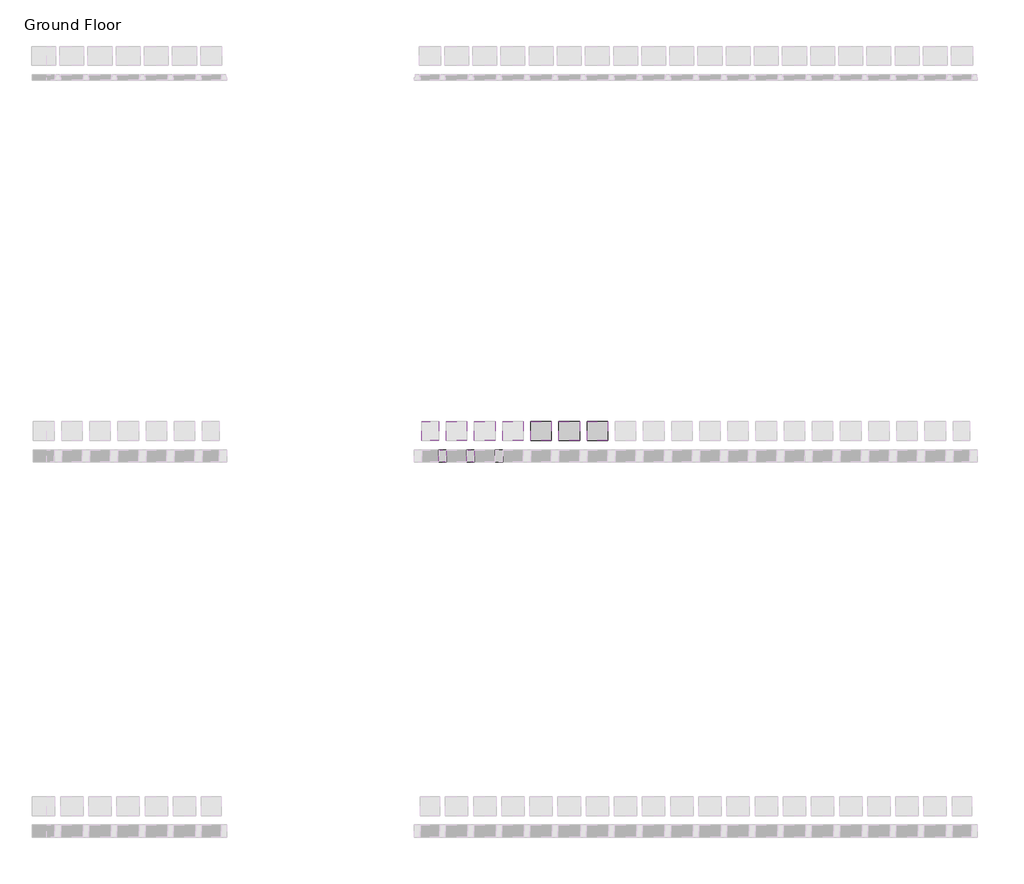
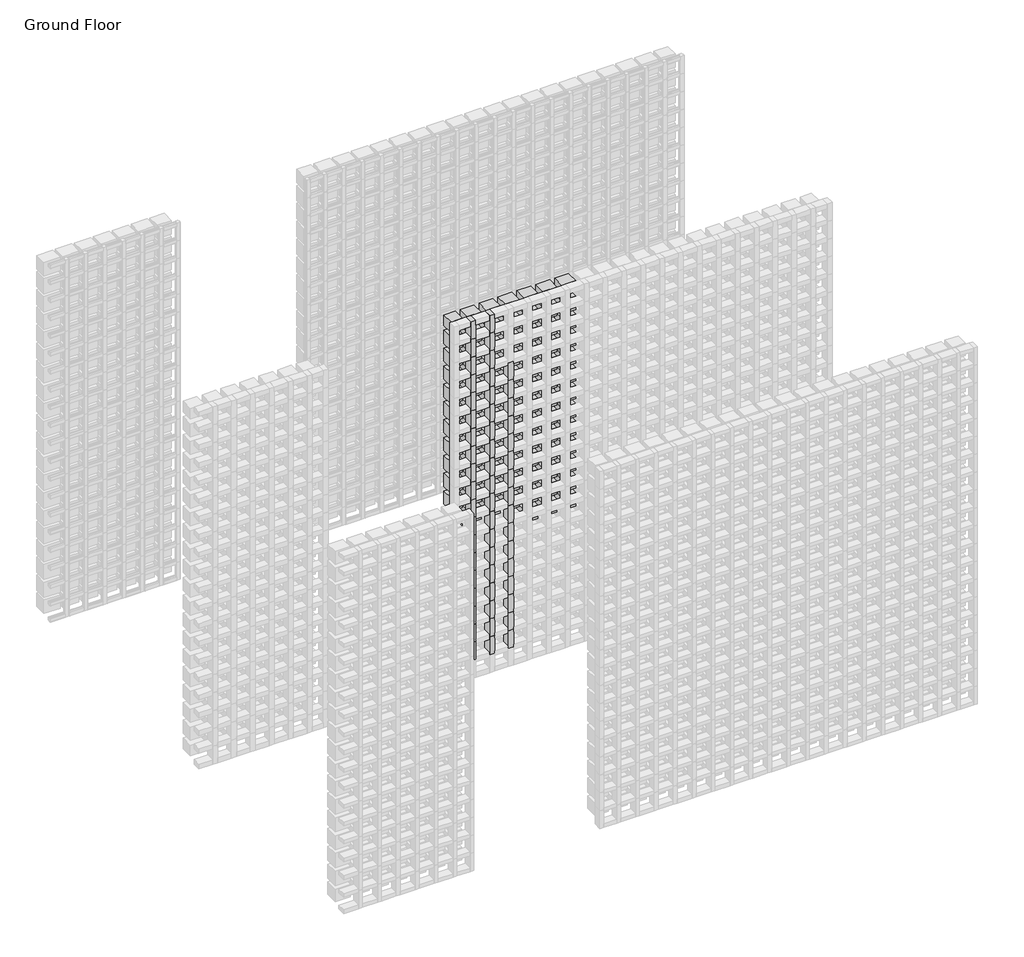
# One storey, part 127 of 350: 87 plates, 54 members.
"""IFC4 building model written with IfcOpenShell, lengths in millimetres."""

from ifc_helpers import new_model, si_unit, origin, place, context, project, spatial, transform, mapped, element, save
from components import rectangular_mullion_655930e9, empty_system_panel_empty_3b500fad, empty_system_panel_empty_e4510abc, empty_system_panel_empty_1faefc6a, empty_system_panel_empty_7f4523f5

model = new_model("IFC4")

# Units and contexts
model_context = context("Model", 3, world=origin())
ifc_project = project(units=[si_unit("LENGTHUNIT", "METRE", prefix="MILLI")], contexts=[model_context])

# Site, building, storey
site = spatial("IfcSite", under=ifc_project)
building = spatial("IfcBuilding", under=site)
storey = spatial("IfcBuildingStorey", under=building, Name="Ground Floor", Elevation=0.0)

# Members
placement = place(None, origin())
rectangular_mullion_shape = rectangular_mullion_655930e9(model_context)
element("IfcMember", 1, ObjectType="Rectangular Mullion : Batten_Timber_Modinex_Austratus_Grid_Fascia_40x65_Hemlock", at=placement, inside=storey, context=model_context, shape_type="MappedRepresentation", body=[
    mapped(rectangular_mullion_shape, transform((10066.4361642, 40968.2978302, 150.0), x_axis=(1.0, 0.0, 0.0), y_axis=(0.0, -1.0, 0.0), z_axis=(0.0, 0.0, -1.0))),
])
element("IfcMember", 2, ObjectType="Rectangular Mullion : Batten_Timber_Modinex_Austratus_Grid_Fascia_40x65_Hemlock", at=placement, inside=storey, context=model_context, shape_type="MappedRepresentation", body=[
    mapped(rectangular_mullion_shape, transform((10066.4361642, 40968.2978302, 300.0), x_axis=(1.0, 0.0, 0.0), y_axis=(0.0, -1.0, 0.0), z_axis=(0.0, 0.0, -1.0))),
])
element("IfcMember", 3, ObjectType="Rectangular Mullion : Batten_Timber_Modinex_Austratus_Grid_Fascia_40x65_Hemlock", at=placement, inside=storey, context=model_context, shape_type="MappedRepresentation", body=[
    mapped(rectangular_mullion_shape, transform((10066.4361642, 40968.2978302, 450.0), x_axis=(1.0, 0.0, 0.0), y_axis=(0.0, -1.0, 0.0), z_axis=(0.0, 0.0, -1.0))),
])
element("IfcMember", 4, ObjectType="Rectangular Mullion : Batten_Timber_Modinex_Austratus_Grid_Fascia_40x65_Hemlock", at=placement, inside=storey, context=model_context, shape_type="MappedRepresentation", body=[
    mapped(rectangular_mullion_shape, transform((10066.4361642, 40968.2978302, 600.0), x_axis=(1.0, 0.0, 0.0), y_axis=(0.0, -1.0, 0.0), z_axis=(0.0, 0.0, -1.0))),
])
element("IfcMember", 5, ObjectType="Rectangular Mullion : Batten_Timber_Modinex_Austratus_Grid_Fascia_40x65_Hemlock", at=placement, inside=storey, context=model_context, shape_type="MappedRepresentation", body=[
    mapped(rectangular_mullion_shape, transform((10066.4361642, 40968.2978302, 750.0), x_axis=(1.0, 0.0, 0.0), y_axis=(0.0, -1.0, 0.0), z_axis=(0.0, 0.0, -1.0))),
])
element("IfcMember", 6, ObjectType="Rectangular Mullion : Batten_Timber_Modinex_Austratus_Grid_Fascia_40x65_Hemlock", at=placement, inside=storey, context=model_context, shape_type="MappedRepresentation", body=[
    mapped(rectangular_mullion_shape, transform((10066.4361642, 40968.2978302, 900.0), x_axis=(1.0, 0.0, 0.0), y_axis=(0.0, -1.0, 0.0), z_axis=(0.0, 0.0, -1.0))),
])
element("IfcMember", 7, ObjectType="Rectangular Mullion : Batten_Timber_Modinex_Austratus_Grid_Fascia_40x65_Hemlock", at=placement, inside=storey, context=model_context, shape_type="MappedRepresentation", body=[
    mapped(rectangular_mullion_shape, transform((10066.4361642, 40968.2978302, 1050.0), x_axis=(1.0, 0.0, 0.0), y_axis=(0.0, -1.0, 0.0), z_axis=(0.0, 0.0, -1.0))),
])
element("IfcMember", 8, ObjectType="Rectangular Mullion : Batten_Timber_Modinex_Austratus_Grid_Fascia_40x65_Hemlock", at=placement, inside=storey, context=model_context, shape_type="MappedRepresentation", body=[
    mapped(rectangular_mullion_shape, transform((10066.4361642, 40968.2978302, 1200.0), x_axis=(1.0, 0.0, 0.0), y_axis=(0.0, -1.0, 0.0), z_axis=(0.0, 0.0, -1.0))),
])
element("IfcMember", 9, ObjectType="Rectangular Mullion : Batten_Timber_Modinex_Austratus_Grid_Fascia_40x65_Hemlock", at=placement, inside=storey, context=model_context, shape_type="MappedRepresentation", body=[
    mapped(rectangular_mullion_shape, transform((10066.4361642, 40968.2978302, 1350.0), x_axis=(1.0, 0.0, 0.0), y_axis=(0.0, -1.0, 0.0), z_axis=(0.0, 0.0, -1.0))),
])
element("IfcMember", 10, ObjectType="Rectangular Mullion : Batten_Timber_Modinex_Austratus_Grid_Fascia_40x65_Hemlock", at=placement, inside=storey, context=model_context, shape_type="MappedRepresentation", body=[
    mapped(rectangular_mullion_shape, transform((10066.4361642, 40968.2978302, 1500.0), x_axis=(1.0, 0.0, 0.0), y_axis=(0.0, -1.0, 0.0), z_axis=(0.0, 0.0, -1.0))),
])
element("IfcMember", 11, ObjectType="Rectangular Mullion : Batten_Timber_Modinex_Austratus_Grid_Fascia_40x65_Hemlock", at=placement, inside=storey, context=model_context, shape_type="MappedRepresentation", body=[
    mapped(rectangular_mullion_shape, transform((10066.4361642, 40968.2978302, 1650.0), x_axis=(1.0, 0.0, 0.0), y_axis=(0.0, -1.0, 0.0), z_axis=(0.0, 0.0, -1.0))),
])
element("IfcMember", 12, ObjectType="Rectangular Mullion : Batten_Timber_Modinex_Austratus_Grid_Fascia_40x65_Hemlock", at=placement, inside=storey, context=model_context, shape_type="MappedRepresentation", body=[
    mapped(rectangular_mullion_shape, transform((10066.4361642, 40968.2978302, 1800.0), x_axis=(1.0, 0.0, 0.0), y_axis=(0.0, -1.0, 0.0), z_axis=(0.0, 0.0, -1.0))),
])
element("IfcMember", 13, ObjectType="Rectangular Mullion : Batten_Timber_Modinex_Austratus_Grid_Fascia_40x65_Hemlock", at=placement, inside=storey, context=model_context, shape_type="MappedRepresentation", body=[
    mapped(rectangular_mullion_shape, transform((10066.4361642, 40968.2978302, 1950.0), x_axis=(1.0, 0.0, 0.0), y_axis=(0.0, -1.0, 0.0), z_axis=(0.0, 0.0, -1.0))),
])
element("IfcMember", 14, ObjectType="Rectangular Mullion : Batten_Timber_Modinex_Austratus_Grid_Fascia_40x65_Hemlock", at=placement, inside=storey, context=model_context, shape_type="MappedRepresentation", body=[
    mapped(rectangular_mullion_shape, transform((10066.4361642, 40968.2978302, 2100.0), x_axis=(1.0, 0.0, 0.0), y_axis=(0.0, -1.0, 0.0), z_axis=(0.0, 0.0, -1.0))),
])
element("IfcMember", 15, ObjectType="Rectangular Mullion : Batten_Timber_Modinex_Austratus_Grid_Fascia_40x65_Hemlock", at=placement, inside=storey, context=model_context, shape_type="MappedRepresentation", body=[
    mapped(rectangular_mullion_shape, transform((10066.4361642, 40968.2978302, 2250.0), x_axis=(1.0, 0.0, 0.0), y_axis=(0.0, -1.0, 0.0), z_axis=(0.0, 0.0, -1.0))),
])
element("IfcMember", 16, ObjectType="Rectangular Mullion : Batten_Timber_Modinex_Austratus_Grid_Fascia_40x65_Hemlock", at=placement, inside=storey, context=model_context, shape_type="MappedRepresentation", body=[
    mapped(rectangular_mullion_shape, transform((10066.4361642, 40968.2978302, 2400.0), x_axis=(1.0, 0.0, 0.0), y_axis=(0.0, -1.0, 0.0), z_axis=(0.0, 0.0, -1.0))),
])
element("IfcMember", 17, ObjectType="Rectangular Mullion : Batten_Timber_Modinex_Austratus_Grid_Fascia_40x65_Hemlock", at=placement, inside=storey, context=model_context, shape_type="MappedRepresentation", body=[
    mapped(rectangular_mullion_shape, transform((10066.4361642, 40968.2978302, 2550.0), x_axis=(1.0, 0.0, 0.0), y_axis=(0.0, -1.0, 0.0), z_axis=(0.0, 0.0, -1.0))),
])
element("IfcMember", 18, ObjectType="Rectangular Mullion : Batten_Timber_Modinex_Austratus_Grid_Fascia_40x65_Hemlock", at=placement, inside=storey, context=model_context, shape_type="MappedRepresentation", body=[
    mapped(rectangular_mullion_shape, transform((10066.4361642, 40968.2978302, 2700.0), x_axis=(1.0, 0.0, 0.0), y_axis=(0.0, -1.0, 0.0), z_axis=(0.0, 0.0, -1.0))),
])
element("IfcMember", 19, ObjectType="Rectangular Mullion : Batten_Timber_Modinex_Austratus_Grid_Fascia_40x65_Hemlock", at=placement, inside=storey, context=model_context, shape_type="MappedRepresentation", body=[
    mapped(rectangular_mullion_shape, transform((10216.4361642, 40968.2978302, 150.0), x_axis=(1.0, 0.0, 0.0), y_axis=(0.0, -1.0, 0.0), z_axis=(0.0, 0.0, -1.0))),
])
element("IfcMember", 20, ObjectType="Rectangular Mullion : Batten_Timber_Modinex_Austratus_Grid_Fascia_40x65_Hemlock", at=placement, inside=storey, context=model_context, shape_type="MappedRepresentation", body=[
    mapped(rectangular_mullion_shape, transform((10216.4361642, 40968.2978302, 300.0), x_axis=(1.0, 0.0, 0.0), y_axis=(0.0, -1.0, 0.0), z_axis=(0.0, 0.0, -1.0))),
])
element("IfcMember", 21, ObjectType="Rectangular Mullion : Batten_Timber_Modinex_Austratus_Grid_Fascia_40x65_Hemlock", at=placement, inside=storey, context=model_context, shape_type="MappedRepresentation", body=[
    mapped(rectangular_mullion_shape, transform((10216.4361642, 40968.2978302, 450.0), x_axis=(1.0, 0.0, 0.0), y_axis=(0.0, -1.0, 0.0), z_axis=(0.0, 0.0, -1.0))),
])
element("IfcMember", 22, ObjectType="Rectangular Mullion : Batten_Timber_Modinex_Austratus_Grid_Fascia_40x65_Hemlock", at=placement, inside=storey, context=model_context, shape_type="MappedRepresentation", body=[
    mapped(rectangular_mullion_shape, transform((10216.4361642, 40968.2978302, 600.0), x_axis=(1.0, 0.0, 0.0), y_axis=(0.0, -1.0, 0.0), z_axis=(0.0, 0.0, -1.0))),
])
element("IfcMember", 23, ObjectType="Rectangular Mullion : Batten_Timber_Modinex_Austratus_Grid_Fascia_40x65_Hemlock", at=placement, inside=storey, context=model_context, shape_type="MappedRepresentation", body=[
    mapped(rectangular_mullion_shape, transform((10216.4361642, 40968.2978302, 750.0), x_axis=(1.0, 0.0, 0.0), y_axis=(0.0, -1.0, 0.0), z_axis=(0.0, 0.0, -1.0))),
])
element("IfcMember", 24, ObjectType="Rectangular Mullion : Batten_Timber_Modinex_Austratus_Grid_Fascia_40x65_Hemlock", at=placement, inside=storey, context=model_context, shape_type="MappedRepresentation", body=[
    mapped(rectangular_mullion_shape, transform((10216.4361642, 40968.2978302, 900.0), x_axis=(1.0, 0.0, 0.0), y_axis=(0.0, -1.0, 0.0), z_axis=(0.0, 0.0, -1.0))),
])
element("IfcMember", 25, ObjectType="Rectangular Mullion : Batten_Timber_Modinex_Austratus_Grid_Fascia_40x65_Hemlock", at=placement, inside=storey, context=model_context, shape_type="MappedRepresentation", body=[
    mapped(rectangular_mullion_shape, transform((10216.4361642, 40968.2978302, 1050.0), x_axis=(1.0, 0.0, 0.0), y_axis=(0.0, -1.0, 0.0), z_axis=(0.0, 0.0, -1.0))),
])
element("IfcMember", 26, ObjectType="Rectangular Mullion : Batten_Timber_Modinex_Austratus_Grid_Fascia_40x65_Hemlock", at=placement, inside=storey, context=model_context, shape_type="MappedRepresentation", body=[
    mapped(rectangular_mullion_shape, transform((10216.4361642, 40968.2978302, 1200.0), x_axis=(1.0, 0.0, 0.0), y_axis=(0.0, -1.0, 0.0), z_axis=(0.0, 0.0, -1.0))),
])
element("IfcMember", 27, ObjectType="Rectangular Mullion : Batten_Timber_Modinex_Austratus_Grid_Fascia_40x65_Hemlock", at=placement, inside=storey, context=model_context, shape_type="MappedRepresentation", body=[
    mapped(rectangular_mullion_shape, transform((10216.4361642, 40968.2978302, 1350.0), x_axis=(1.0, 0.0, 0.0), y_axis=(0.0, -1.0, 0.0), z_axis=(0.0, 0.0, -1.0))),
])
element("IfcMember", 28, ObjectType="Rectangular Mullion : Batten_Timber_Modinex_Austratus_Grid_Fascia_40x65_Hemlock", at=placement, inside=storey, context=model_context, shape_type="MappedRepresentation", body=[
    mapped(rectangular_mullion_shape, transform((10216.4361642, 40968.2978302, 1500.0), x_axis=(1.0, 0.0, 0.0), y_axis=(0.0, -1.0, 0.0), z_axis=(0.0, 0.0, -1.0))),
])
element("IfcMember", 29, ObjectType="Rectangular Mullion : Batten_Timber_Modinex_Austratus_Grid_Fascia_40x65_Hemlock", at=placement, inside=storey, context=model_context, shape_type="MappedRepresentation", body=[
    mapped(rectangular_mullion_shape, transform((10216.4361642, 40968.2978302, 1650.0), x_axis=(1.0, 0.0, 0.0), y_axis=(0.0, -1.0, 0.0), z_axis=(0.0, 0.0, -1.0))),
])
element("IfcMember", 30, ObjectType="Rectangular Mullion : Batten_Timber_Modinex_Austratus_Grid_Fascia_40x65_Hemlock", at=placement, inside=storey, context=model_context, shape_type="MappedRepresentation", body=[
    mapped(rectangular_mullion_shape, transform((10216.4361642, 40968.2978302, 1800.0), x_axis=(1.0, 0.0, 0.0), y_axis=(0.0, -1.0, 0.0), z_axis=(0.0, 0.0, -1.0))),
])
element("IfcMember", 31, ObjectType="Rectangular Mullion : Batten_Timber_Modinex_Austratus_Grid_Fascia_40x65_Hemlock", at=placement, inside=storey, context=model_context, shape_type="MappedRepresentation", body=[
    mapped(rectangular_mullion_shape, transform((10216.4361642, 40968.2978302, 1950.0), x_axis=(1.0, 0.0, 0.0), y_axis=(0.0, -1.0, 0.0), z_axis=(0.0, 0.0, -1.0))),
])
element("IfcMember", 32, ObjectType="Rectangular Mullion : Batten_Timber_Modinex_Austratus_Grid_Fascia_40x65_Hemlock", at=placement, inside=storey, context=model_context, shape_type="MappedRepresentation", body=[
    mapped(rectangular_mullion_shape, transform((10216.4361642, 40968.2978302, 2100.0), x_axis=(1.0, 0.0, 0.0), y_axis=(0.0, -1.0, 0.0), z_axis=(0.0, 0.0, -1.0))),
])
element("IfcMember", 33, ObjectType="Rectangular Mullion : Batten_Timber_Modinex_Austratus_Grid_Fascia_40x65_Hemlock", at=placement, inside=storey, context=model_context, shape_type="MappedRepresentation", body=[
    mapped(rectangular_mullion_shape, transform((10216.4361642, 40968.2978302, 2250.0), x_axis=(1.0, 0.0, 0.0), y_axis=(0.0, -1.0, 0.0), z_axis=(0.0, 0.0, -1.0))),
])
element("IfcMember", 34, ObjectType="Rectangular Mullion : Batten_Timber_Modinex_Austratus_Grid_Fascia_40x65_Hemlock", at=placement, inside=storey, context=model_context, shape_type="MappedRepresentation", body=[
    mapped(rectangular_mullion_shape, transform((10216.4361642, 40968.2978302, 2400.0), x_axis=(1.0, 0.0, 0.0), y_axis=(0.0, -1.0, 0.0), z_axis=(0.0, 0.0, -1.0))),
])
element("IfcMember", 35, ObjectType="Rectangular Mullion : Batten_Timber_Modinex_Austratus_Grid_Fascia_40x65_Hemlock", at=placement, inside=storey, context=model_context, shape_type="MappedRepresentation", body=[
    mapped(rectangular_mullion_shape, transform((10216.4361642, 40968.2978302, 2550.0), x_axis=(1.0, 0.0, 0.0), y_axis=(0.0, -1.0, 0.0), z_axis=(0.0, 0.0, -1.0))),
])
element("IfcMember", 36, ObjectType="Rectangular Mullion : Batten_Timber_Modinex_Austratus_Grid_Fascia_40x65_Hemlock", at=placement, inside=storey, context=model_context, shape_type="MappedRepresentation", body=[
    mapped(rectangular_mullion_shape, transform((10216.4361642, 40968.2978302, 2700.0), x_axis=(1.0, 0.0, 0.0), y_axis=(0.0, -1.0, 0.0), z_axis=(0.0, 0.0, -1.0))),
])
element("IfcMember", 37, ObjectType="Rectangular Mullion : Batten_Timber_Modinex_Austratus_Grid_Fascia_40x65_Hemlock", at=placement, inside=storey, context=model_context, shape_type="MappedRepresentation", body=[
    mapped(rectangular_mullion_shape, transform((10366.4361642, 40968.2978302, 150.0), x_axis=(1.0, 0.0, 0.0), y_axis=(0.0, -1.0, 0.0), z_axis=(0.0, 0.0, -1.0))),
])
element("IfcMember", 38, ObjectType="Rectangular Mullion : Batten_Timber_Modinex_Austratus_Grid_Fascia_40x65_Hemlock", at=placement, inside=storey, context=model_context, shape_type="MappedRepresentation", body=[
    mapped(rectangular_mullion_shape, transform((10366.4361642, 40968.2978302, 300.0), x_axis=(1.0, 0.0, 0.0), y_axis=(0.0, -1.0, 0.0), z_axis=(0.0, 0.0, -1.0))),
])
element("IfcMember", 39, ObjectType="Rectangular Mullion : Batten_Timber_Modinex_Austratus_Grid_Fascia_40x65_Hemlock", at=placement, inside=storey, context=model_context, shape_type="MappedRepresentation", body=[
    mapped(rectangular_mullion_shape, transform((10366.4361642, 40968.2978302, 450.0), x_axis=(1.0, 0.0, 0.0), y_axis=(0.0, -1.0, 0.0), z_axis=(0.0, 0.0, -1.0))),
])
element("IfcMember", 40, ObjectType="Rectangular Mullion : Batten_Timber_Modinex_Austratus_Grid_Fascia_40x65_Hemlock", at=placement, inside=storey, context=model_context, shape_type="MappedRepresentation", body=[
    mapped(rectangular_mullion_shape, transform((10366.4361642, 40968.2978302, 600.0), x_axis=(1.0, 0.0, 0.0), y_axis=(0.0, -1.0, 0.0), z_axis=(0.0, 0.0, -1.0))),
])
element("IfcMember", 41, ObjectType="Rectangular Mullion : Batten_Timber_Modinex_Austratus_Grid_Fascia_40x65_Hemlock", at=placement, inside=storey, context=model_context, shape_type="MappedRepresentation", body=[
    mapped(rectangular_mullion_shape, transform((10366.4361642, 40968.2978302, 750.0), x_axis=(1.0, 0.0, 0.0), y_axis=(0.0, -1.0, 0.0), z_axis=(0.0, 0.0, -1.0))),
])
element("IfcMember", 42, ObjectType="Rectangular Mullion : Batten_Timber_Modinex_Austratus_Grid_Fascia_40x65_Hemlock", at=placement, inside=storey, context=model_context, shape_type="MappedRepresentation", body=[
    mapped(rectangular_mullion_shape, transform((10366.4361642, 40968.2978302, 900.0), x_axis=(1.0, 0.0, 0.0), y_axis=(0.0, -1.0, 0.0), z_axis=(0.0, 0.0, -1.0))),
])
element("IfcMember", 43, ObjectType="Rectangular Mullion : Batten_Timber_Modinex_Austratus_Grid_Fascia_40x65_Hemlock", at=placement, inside=storey, context=model_context, shape_type="MappedRepresentation", body=[
    mapped(rectangular_mullion_shape, transform((10366.4361642, 40968.2978302, 1050.0), x_axis=(1.0, 0.0, 0.0), y_axis=(0.0, -1.0, 0.0), z_axis=(0.0, 0.0, -1.0))),
])
element("IfcMember", 44, ObjectType="Rectangular Mullion : Batten_Timber_Modinex_Austratus_Grid_Fascia_40x65_Hemlock", at=placement, inside=storey, context=model_context, shape_type="MappedRepresentation", body=[
    mapped(rectangular_mullion_shape, transform((10366.4361642, 40968.2978302, 1200.0), x_axis=(1.0, 0.0, 0.0), y_axis=(0.0, -1.0, 0.0), z_axis=(0.0, 0.0, -1.0))),
])
element("IfcMember", 45, ObjectType="Rectangular Mullion : Batten_Timber_Modinex_Austratus_Grid_Fascia_40x65_Hemlock", at=placement, inside=storey, context=model_context, shape_type="MappedRepresentation", body=[
    mapped(rectangular_mullion_shape, transform((10366.4361642, 40968.2978302, 1350.0), x_axis=(1.0, 0.0, 0.0), y_axis=(0.0, -1.0, 0.0), z_axis=(0.0, 0.0, -1.0))),
])
element("IfcMember", 46, ObjectType="Rectangular Mullion : Batten_Timber_Modinex_Austratus_Grid_Fascia_40x65_Hemlock", at=placement, inside=storey, context=model_context, shape_type="MappedRepresentation", body=[
    mapped(rectangular_mullion_shape, transform((10366.4361642, 40968.2978302, 1500.0), x_axis=(1.0, 0.0, 0.0), y_axis=(0.0, -1.0, 0.0), z_axis=(0.0, 0.0, -1.0))),
])
element("IfcMember", 47, ObjectType="Rectangular Mullion : Batten_Timber_Modinex_Austratus_Grid_Fascia_40x65_Hemlock", at=placement, inside=storey, context=model_context, shape_type="MappedRepresentation", body=[
    mapped(rectangular_mullion_shape, transform((10366.4361642, 40968.2978302, 1650.0), x_axis=(1.0, 0.0, 0.0), y_axis=(0.0, -1.0, 0.0), z_axis=(0.0, 0.0, -1.0))),
])
element("IfcMember", 48, ObjectType="Rectangular Mullion : Batten_Timber_Modinex_Austratus_Grid_Fascia_40x65_Hemlock", at=placement, inside=storey, context=model_context, shape_type="MappedRepresentation", body=[
    mapped(rectangular_mullion_shape, transform((10366.4361642, 40968.2978302, 1800.0), x_axis=(1.0, 0.0, 0.0), y_axis=(0.0, -1.0, 0.0), z_axis=(0.0, 0.0, -1.0))),
])
element("IfcMember", 49, ObjectType="Rectangular Mullion : Batten_Timber_Modinex_Austratus_Grid_Fascia_40x65_Hemlock", at=placement, inside=storey, context=model_context, shape_type="MappedRepresentation", body=[
    mapped(rectangular_mullion_shape, transform((10366.4361642, 40968.2978302, 1950.0), x_axis=(1.0, 0.0, 0.0), y_axis=(0.0, -1.0, 0.0), z_axis=(0.0, 0.0, -1.0))),
])
element("IfcMember", 50, ObjectType="Rectangular Mullion : Batten_Timber_Modinex_Austratus_Grid_Fascia_40x65_Hemlock", at=placement, inside=storey, context=model_context, shape_type="MappedRepresentation", body=[
    mapped(rectangular_mullion_shape, transform((10366.4361642, 40968.2978302, 2100.0), x_axis=(1.0, 0.0, 0.0), y_axis=(0.0, -1.0, 0.0), z_axis=(0.0, 0.0, -1.0))),
])
element("IfcMember", 51, ObjectType="Rectangular Mullion : Batten_Timber_Modinex_Austratus_Grid_Fascia_40x65_Hemlock", at=placement, inside=storey, context=model_context, shape_type="MappedRepresentation", body=[
    mapped(rectangular_mullion_shape, transform((10366.4361642, 40968.2978302, 2250.0), x_axis=(1.0, 0.0, 0.0), y_axis=(0.0, -1.0, 0.0), z_axis=(0.0, 0.0, -1.0))),
])
element("IfcMember", 52, ObjectType="Rectangular Mullion : Batten_Timber_Modinex_Austratus_Grid_Fascia_40x65_Hemlock", at=placement, inside=storey, context=model_context, shape_type="MappedRepresentation", body=[
    mapped(rectangular_mullion_shape, transform((10366.4361642, 40968.2978302, 2400.0), x_axis=(1.0, 0.0, 0.0), y_axis=(0.0, -1.0, 0.0), z_axis=(0.0, 0.0, -1.0))),
])
element("IfcMember", 53, ObjectType="Rectangular Mullion : Batten_Timber_Modinex_Austratus_Grid_Fascia_40x65_Hemlock", at=placement, inside=storey, context=model_context, shape_type="MappedRepresentation", body=[
    mapped(rectangular_mullion_shape, transform((10066.4361642, 40968.2978302, 2850.0), x_axis=(1.0, 0.0, 0.0), y_axis=(0.0, -1.0, 0.0), z_axis=(0.0, 0.0, -1.0))),
])
element("IfcMember", 54, ObjectType="Rectangular Mullion : Batten_Timber_Modinex_Austratus_Grid_Fascia_40x65_Hemlock", at=placement, inside=storey, context=model_context, shape_type="MappedRepresentation", body=[
    mapped(rectangular_mullion_shape, transform((10216.4361642, 40968.2978302, 2850.0), x_axis=(1.0, 0.0, 0.0), y_axis=(0.0, -1.0, 0.0), z_axis=(0.0, 0.0, -1.0))),
])

# Plates
empty_system_panel_empty_shape = empty_system_panel_empty_3b500fad(model_context)
element("IfcPlate", 55, ObjectType="Empty System Panel : Empty", at=placement, inside=storey, context=model_context, shape_type="MappedRepresentation", body=[
    mapped(empty_system_panel_empty_shape, transform((10591.4361642, 40968.2978302, 1070.0), x_axis=(1.0, 0.0, 0.0), y_axis=(0.0, 1.0, 0.0), z_axis=(0.0, 0.0, 1.0))),
])
element("IfcPlate", 56, ObjectType="Empty System Panel : Empty", at=placement, inside=storey, context=model_context, shape_type="MappedRepresentation", body=[
    mapped(empty_system_panel_empty_shape, transform((10741.4361642, 40968.2978302, 1070.0), x_axis=(1.0, 0.0, 0.0), y_axis=(0.0, 1.0, 0.0), z_axis=(0.0, 0.0, 1.0))),
])
element("IfcPlate", 57, ObjectType="Empty System Panel : Empty", at=placement, inside=storey, context=model_context, shape_type="MappedRepresentation", body=[
    mapped(empty_system_panel_empty_shape, transform((10891.4361642, 40968.2978302, 1070.0), x_axis=(1.0, 0.0, 0.0), y_axis=(0.0, 1.0, 0.0), z_axis=(0.0, 0.0, 1.0))),
])
element("IfcPlate", 58, ObjectType="Empty System Panel : Empty", at=placement, inside=storey, context=model_context, shape_type="MappedRepresentation", body=[
    mapped(empty_system_panel_empty_shape, transform((10141.4361642, 40968.2978302, 1220.0), x_axis=(1.0, 0.0, 0.0), y_axis=(0.0, 1.0, 0.0), z_axis=(0.0, 0.0, 1.0))),
])
element("IfcPlate", 59, ObjectType="Empty System Panel : Empty", at=placement, inside=storey, context=model_context, shape_type="MappedRepresentation", body=[
    mapped(empty_system_panel_empty_shape, transform((10291.4361642, 40968.2978302, 1220.0), x_axis=(1.0, 0.0, 0.0), y_axis=(0.0, 1.0, 0.0), z_axis=(0.0, 0.0, 1.0))),
])
element("IfcPlate", 60, ObjectType="Empty System Panel : Empty", at=placement, inside=storey, context=model_context, shape_type="MappedRepresentation", body=[
    mapped(empty_system_panel_empty_shape, transform((10441.4361642, 40968.2978302, 1220.0), x_axis=(1.0, 0.0, 0.0), y_axis=(0.0, 1.0, 0.0), z_axis=(0.0, 0.0, 1.0))),
])
element("IfcPlate", 61, ObjectType="Empty System Panel : Empty", at=placement, inside=storey, context=model_context, shape_type="MappedRepresentation", body=[
    mapped(empty_system_panel_empty_shape, transform((10591.4361642, 40968.2978302, 1220.0), x_axis=(1.0, 0.0, 0.0), y_axis=(0.0, 1.0, 0.0), z_axis=(0.0, 0.0, 1.0))),
])
element("IfcPlate", 62, ObjectType="Empty System Panel : Empty", at=placement, inside=storey, context=model_context, shape_type="MappedRepresentation", body=[
    mapped(empty_system_panel_empty_shape, transform((10741.4361642, 40968.2978302, 1220.0), x_axis=(1.0, 0.0, 0.0), y_axis=(0.0, 1.0, 0.0), z_axis=(0.0, 0.0, 1.0))),
])
element("IfcPlate", 63, ObjectType="Empty System Panel : Empty", at=placement, inside=storey, context=model_context, shape_type="MappedRepresentation", body=[
    mapped(empty_system_panel_empty_shape, transform((10891.4361642, 40968.2978302, 1220.0), x_axis=(1.0, 0.0, 0.0), y_axis=(0.0, 1.0, 0.0), z_axis=(0.0, 0.0, 1.0))),
])
element("IfcPlate", 64, ObjectType="Empty System Panel : Empty", at=placement, inside=storey, context=model_context, shape_type="MappedRepresentation", body=[
    mapped(empty_system_panel_empty_shape, transform((10141.4361642, 40968.2978302, 1370.0), x_axis=(1.0, 0.0, 0.0), y_axis=(0.0, 1.0, 0.0), z_axis=(0.0, 0.0, 1.0))),
])
element("IfcPlate", 65, ObjectType="Empty System Panel : Empty", at=placement, inside=storey, context=model_context, shape_type="MappedRepresentation", body=[
    mapped(empty_system_panel_empty_shape, transform((10291.4361642, 40968.2978302, 1370.0), x_axis=(1.0, 0.0, 0.0), y_axis=(0.0, 1.0, 0.0), z_axis=(0.0, 0.0, 1.0))),
])
element("IfcPlate", 66, ObjectType="Empty System Panel : Empty", at=placement, inside=storey, context=model_context, shape_type="MappedRepresentation", body=[
    mapped(empty_system_panel_empty_shape, transform((10441.4361642, 40968.2978302, 1370.0), x_axis=(1.0, 0.0, 0.0), y_axis=(0.0, 1.0, 0.0), z_axis=(0.0, 0.0, 1.0))),
])
element("IfcPlate", 67, ObjectType="Empty System Panel : Empty", at=placement, inside=storey, context=model_context, shape_type="MappedRepresentation", body=[
    mapped(empty_system_panel_empty_shape, transform((10591.4361642, 40968.2978302, 1370.0), x_axis=(1.0, 0.0, 0.0), y_axis=(0.0, 1.0, 0.0), z_axis=(0.0, 0.0, 1.0))),
])
element("IfcPlate", 68, ObjectType="Empty System Panel : Empty", at=placement, inside=storey, context=model_context, shape_type="MappedRepresentation", body=[
    mapped(empty_system_panel_empty_shape, transform((10741.4361642, 40968.2978302, 1370.0), x_axis=(1.0, 0.0, 0.0), y_axis=(0.0, 1.0, 0.0), z_axis=(0.0, 0.0, 1.0))),
])
element("IfcPlate", 69, ObjectType="Empty System Panel : Empty", at=placement, inside=storey, context=model_context, shape_type="MappedRepresentation", body=[
    mapped(empty_system_panel_empty_shape, transform((10891.4361642, 40968.2978302, 1370.0), x_axis=(1.0, 0.0, 0.0), y_axis=(0.0, 1.0, 0.0), z_axis=(0.0, 0.0, 1.0))),
])
element("IfcPlate", 70, ObjectType="Empty System Panel : Empty", at=placement, inside=storey, context=model_context, shape_type="MappedRepresentation", body=[
    mapped(empty_system_panel_empty_shape, transform((10141.4361642, 40968.2978302, 1520.0), x_axis=(1.0, 0.0, 0.0), y_axis=(0.0, 1.0, 0.0), z_axis=(0.0, 0.0, 1.0))),
])
element("IfcPlate", 71, ObjectType="Empty System Panel : Empty", at=placement, inside=storey, context=model_context, shape_type="MappedRepresentation", body=[
    mapped(empty_system_panel_empty_shape, transform((10291.4361642, 40968.2978302, 1520.0), x_axis=(1.0, 0.0, 0.0), y_axis=(0.0, 1.0, 0.0), z_axis=(0.0, 0.0, 1.0))),
])
element("IfcPlate", 72, ObjectType="Empty System Panel : Empty", at=placement, inside=storey, context=model_context, shape_type="MappedRepresentation", body=[
    mapped(empty_system_panel_empty_shape, transform((10441.4361642, 40968.2978302, 1520.0), x_axis=(1.0, 0.0, 0.0), y_axis=(0.0, 1.0, 0.0), z_axis=(0.0, 0.0, 1.0))),
])
element("IfcPlate", 73, ObjectType="Empty System Panel : Empty", at=placement, inside=storey, context=model_context, shape_type="MappedRepresentation", body=[
    mapped(empty_system_panel_empty_shape, transform((10591.4361642, 40968.2978302, 1520.0), x_axis=(1.0, 0.0, 0.0), y_axis=(0.0, 1.0, 0.0), z_axis=(0.0, 0.0, 1.0))),
])
element("IfcPlate", 74, ObjectType="Empty System Panel : Empty", at=placement, inside=storey, context=model_context, shape_type="MappedRepresentation", body=[
    mapped(empty_system_panel_empty_shape, transform((10741.4361642, 40968.2978302, 1520.0), x_axis=(1.0, 0.0, 0.0), y_axis=(0.0, 1.0, 0.0), z_axis=(0.0, 0.0, 1.0))),
])
element("IfcPlate", 75, ObjectType="Empty System Panel : Empty", at=placement, inside=storey, context=model_context, shape_type="MappedRepresentation", body=[
    mapped(empty_system_panel_empty_shape, transform((10891.4361642, 40968.2978302, 1520.0), x_axis=(1.0, 0.0, 0.0), y_axis=(0.0, 1.0, 0.0), z_axis=(0.0, 0.0, 1.0))),
])
element("IfcPlate", 76, ObjectType="Empty System Panel : Empty", at=placement, inside=storey, context=model_context, shape_type="MappedRepresentation", body=[
    mapped(empty_system_panel_empty_shape, transform((10141.4361642, 40968.2978302, 1670.0), x_axis=(1.0, 0.0, 0.0), y_axis=(0.0, 1.0, 0.0), z_axis=(0.0, 0.0, 1.0))),
])
element("IfcPlate", 77, ObjectType="Empty System Panel : Empty", at=placement, inside=storey, context=model_context, shape_type="MappedRepresentation", body=[
    mapped(empty_system_panel_empty_shape, transform((10291.4361642, 40968.2978302, 1670.0), x_axis=(1.0, 0.0, 0.0), y_axis=(0.0, 1.0, 0.0), z_axis=(0.0, 0.0, 1.0))),
])
element("IfcPlate", 78, ObjectType="Empty System Panel : Empty", at=placement, inside=storey, context=model_context, shape_type="MappedRepresentation", body=[
    mapped(empty_system_panel_empty_shape, transform((10441.4361642, 40968.2978302, 1670.0), x_axis=(1.0, 0.0, 0.0), y_axis=(0.0, 1.0, 0.0), z_axis=(0.0, 0.0, 1.0))),
])
element("IfcPlate", 79, ObjectType="Empty System Panel : Empty", at=placement, inside=storey, context=model_context, shape_type="MappedRepresentation", body=[
    mapped(empty_system_panel_empty_shape, transform((10591.4361642, 40968.2978302, 1670.0), x_axis=(1.0, 0.0, 0.0), y_axis=(0.0, 1.0, 0.0), z_axis=(0.0, 0.0, 1.0))),
])
element("IfcPlate", 80, ObjectType="Empty System Panel : Empty", at=placement, inside=storey, context=model_context, shape_type="MappedRepresentation", body=[
    mapped(empty_system_panel_empty_shape, transform((10741.4361642, 40968.2978302, 1670.0), x_axis=(1.0, 0.0, 0.0), y_axis=(0.0, 1.0, 0.0), z_axis=(0.0, 0.0, 1.0))),
])
element("IfcPlate", 81, ObjectType="Empty System Panel : Empty", at=placement, inside=storey, context=model_context, shape_type="MappedRepresentation", body=[
    mapped(empty_system_panel_empty_shape, transform((10891.4361642, 40968.2978302, 1670.0), x_axis=(1.0, 0.0, 0.0), y_axis=(0.0, 1.0, 0.0), z_axis=(0.0, 0.0, 1.0))),
])
element("IfcPlate", 82, ObjectType="Empty System Panel : Empty", at=placement, inside=storey, context=model_context, shape_type="MappedRepresentation", body=[
    mapped(empty_system_panel_empty_shape, transform((10141.4361642, 40968.2978302, 1820.0), x_axis=(1.0, 0.0, 0.0), y_axis=(0.0, 1.0, 0.0), z_axis=(0.0, 0.0, 1.0))),
])
element("IfcPlate", 83, ObjectType="Empty System Panel : Empty", at=placement, inside=storey, context=model_context, shape_type="MappedRepresentation", body=[
    mapped(empty_system_panel_empty_shape, transform((10291.4361642, 40968.2978302, 1820.0), x_axis=(1.0, 0.0, 0.0), y_axis=(0.0, 1.0, 0.0), z_axis=(0.0, 0.0, 1.0))),
])
element("IfcPlate", 84, ObjectType="Empty System Panel : Empty", at=placement, inside=storey, context=model_context, shape_type="MappedRepresentation", body=[
    mapped(empty_system_panel_empty_shape, transform((10441.4361642, 40968.2978302, 1820.0), x_axis=(1.0, 0.0, 0.0), y_axis=(0.0, 1.0, 0.0), z_axis=(0.0, 0.0, 1.0))),
])
element("IfcPlate", 85, ObjectType="Empty System Panel : Empty", at=placement, inside=storey, context=model_context, shape_type="MappedRepresentation", body=[
    mapped(empty_system_panel_empty_shape, transform((10591.4361642, 40968.2978302, 1820.0), x_axis=(1.0, 0.0, 0.0), y_axis=(0.0, 1.0, 0.0), z_axis=(0.0, 0.0, 1.0))),
])
element("IfcPlate", 86, ObjectType="Empty System Panel : Empty", at=placement, inside=storey, context=model_context, shape_type="MappedRepresentation", body=[
    mapped(empty_system_panel_empty_shape, transform((10741.4361642, 40968.2978302, 1820.0), x_axis=(1.0, 0.0, 0.0), y_axis=(0.0, 1.0, 0.0), z_axis=(0.0, 0.0, 1.0))),
])
element("IfcPlate", 87, ObjectType="Empty System Panel : Empty", at=placement, inside=storey, context=model_context, shape_type="MappedRepresentation", body=[
    mapped(empty_system_panel_empty_shape, transform((10891.4361642, 40968.2978302, 1820.0), x_axis=(1.0, 0.0, 0.0), y_axis=(0.0, 1.0, 0.0), z_axis=(0.0, 0.0, 1.0))),
])
element("IfcPlate", 88, ObjectType="Empty System Panel : Empty", at=placement, inside=storey, context=model_context, shape_type="MappedRepresentation", body=[
    mapped(empty_system_panel_empty_shape, transform((10141.4361642, 40968.2978302, 1970.0), x_axis=(1.0, 0.0, 0.0), y_axis=(0.0, 1.0, 0.0), z_axis=(0.0, 0.0, 1.0))),
])
element("IfcPlate", 89, ObjectType="Empty System Panel : Empty", at=placement, inside=storey, context=model_context, shape_type="MappedRepresentation", body=[
    mapped(empty_system_panel_empty_shape, transform((10291.4361642, 40968.2978302, 1970.0), x_axis=(1.0, 0.0, 0.0), y_axis=(0.0, 1.0, 0.0), z_axis=(0.0, 0.0, 1.0))),
])
element("IfcPlate", 90, ObjectType="Empty System Panel : Empty", at=placement, inside=storey, context=model_context, shape_type="MappedRepresentation", body=[
    mapped(empty_system_panel_empty_shape, transform((10441.4361642, 40968.2978302, 1970.0), x_axis=(1.0, 0.0, 0.0), y_axis=(0.0, 1.0, 0.0), z_axis=(0.0, 0.0, 1.0))),
])
element("IfcPlate", 91, ObjectType="Empty System Panel : Empty", at=placement, inside=storey, context=model_context, shape_type="MappedRepresentation", body=[
    mapped(empty_system_panel_empty_shape, transform((10591.4361642, 40968.2978302, 1970.0), x_axis=(1.0, 0.0, 0.0), y_axis=(0.0, 1.0, 0.0), z_axis=(0.0, 0.0, 1.0))),
])
element("IfcPlate", 92, ObjectType="Empty System Panel : Empty", at=placement, inside=storey, context=model_context, shape_type="MappedRepresentation", body=[
    mapped(empty_system_panel_empty_shape, transform((10741.4361642, 40968.2978302, 1970.0), x_axis=(1.0, 0.0, 0.0), y_axis=(0.0, 1.0, 0.0), z_axis=(0.0, 0.0, 1.0))),
])
element("IfcPlate", 93, ObjectType="Empty System Panel : Empty", at=placement, inside=storey, context=model_context, shape_type="MappedRepresentation", body=[
    mapped(empty_system_panel_empty_shape, transform((10891.4361642, 40968.2978302, 1970.0), x_axis=(1.0, 0.0, 0.0), y_axis=(0.0, 1.0, 0.0), z_axis=(0.0, 0.0, 1.0))),
])
element("IfcPlate", 94, ObjectType="Empty System Panel : Empty", at=placement, inside=storey, context=model_context, shape_type="MappedRepresentation", body=[
    mapped(empty_system_panel_empty_shape, transform((10141.4361642, 40968.2978302, 2120.0), x_axis=(1.0, 0.0, 0.0), y_axis=(0.0, 1.0, 0.0), z_axis=(0.0, 0.0, 1.0))),
])
element("IfcPlate", 95, ObjectType="Empty System Panel : Empty", at=placement, inside=storey, context=model_context, shape_type="MappedRepresentation", body=[
    mapped(empty_system_panel_empty_shape, transform((10291.4361642, 40968.2978302, 2120.0), x_axis=(1.0, 0.0, 0.0), y_axis=(0.0, 1.0, 0.0), z_axis=(0.0, 0.0, 1.0))),
])
element("IfcPlate", 96, ObjectType="Empty System Panel : Empty", at=placement, inside=storey, context=model_context, shape_type="MappedRepresentation", body=[
    mapped(empty_system_panel_empty_shape, transform((10441.4361642, 40968.2978302, 2120.0), x_axis=(1.0, 0.0, 0.0), y_axis=(0.0, 1.0, 0.0), z_axis=(0.0, 0.0, 1.0))),
])
element("IfcPlate", 97, ObjectType="Empty System Panel : Empty", at=placement, inside=storey, context=model_context, shape_type="MappedRepresentation", body=[
    mapped(empty_system_panel_empty_shape, transform((10591.4361642, 40968.2978302, 2120.0), x_axis=(1.0, 0.0, 0.0), y_axis=(0.0, 1.0, 0.0), z_axis=(0.0, 0.0, 1.0))),
])
element("IfcPlate", 98, ObjectType="Empty System Panel : Empty", at=placement, inside=storey, context=model_context, shape_type="MappedRepresentation", body=[
    mapped(empty_system_panel_empty_shape, transform((10741.4361642, 40968.2978302, 2120.0), x_axis=(1.0, 0.0, 0.0), y_axis=(0.0, 1.0, 0.0), z_axis=(0.0, 0.0, 1.0))),
])
element("IfcPlate", 99, ObjectType="Empty System Panel : Empty", at=placement, inside=storey, context=model_context, shape_type="MappedRepresentation", body=[
    mapped(empty_system_panel_empty_shape, transform((10891.4361642, 40968.2978302, 2120.0), x_axis=(1.0, 0.0, 0.0), y_axis=(0.0, 1.0, 0.0), z_axis=(0.0, 0.0, 1.0))),
])
element("IfcPlate", 100, ObjectType="Empty System Panel : Empty", at=placement, inside=storey, context=model_context, shape_type="MappedRepresentation", body=[
    mapped(empty_system_panel_empty_shape, transform((10141.4361642, 40968.2978302, 2270.0), x_axis=(1.0, 0.0, 0.0), y_axis=(0.0, 1.0, 0.0), z_axis=(0.0, 0.0, 1.0))),
])
element("IfcPlate", 101, ObjectType="Empty System Panel : Empty", at=placement, inside=storey, context=model_context, shape_type="MappedRepresentation", body=[
    mapped(empty_system_panel_empty_shape, transform((10291.4361642, 40968.2978302, 2270.0), x_axis=(1.0, 0.0, 0.0), y_axis=(0.0, 1.0, 0.0), z_axis=(0.0, 0.0, 1.0))),
])
element("IfcPlate", 102, ObjectType="Empty System Panel : Empty", at=placement, inside=storey, context=model_context, shape_type="MappedRepresentation", body=[
    mapped(empty_system_panel_empty_shape, transform((10441.4361642, 40968.2978302, 2270.0), x_axis=(1.0, 0.0, 0.0), y_axis=(0.0, 1.0, 0.0), z_axis=(0.0, 0.0, 1.0))),
])
element("IfcPlate", 103, ObjectType="Empty System Panel : Empty", at=placement, inside=storey, context=model_context, shape_type="MappedRepresentation", body=[
    mapped(empty_system_panel_empty_shape, transform((10591.4361642, 40968.2978302, 2270.0), x_axis=(1.0, 0.0, 0.0), y_axis=(0.0, 1.0, 0.0), z_axis=(0.0, 0.0, 1.0))),
])
element("IfcPlate", 104, ObjectType="Empty System Panel : Empty", at=placement, inside=storey, context=model_context, shape_type="MappedRepresentation", body=[
    mapped(empty_system_panel_empty_shape, transform((10741.4361642, 40968.2978302, 2270.0), x_axis=(1.0, 0.0, 0.0), y_axis=(0.0, 1.0, 0.0), z_axis=(0.0, 0.0, 1.0))),
])
element("IfcPlate", 105, ObjectType="Empty System Panel : Empty", at=placement, inside=storey, context=model_context, shape_type="MappedRepresentation", body=[
    mapped(empty_system_panel_empty_shape, transform((10891.4361642, 40968.2978302, 2270.0), x_axis=(1.0, 0.0, 0.0), y_axis=(0.0, 1.0, 0.0), z_axis=(0.0, 0.0, 1.0))),
])
element("IfcPlate", 106, ObjectType="Empty System Panel : Empty", at=placement, inside=storey, context=model_context, shape_type="MappedRepresentation", body=[
    mapped(empty_system_panel_empty_shape, transform((10141.4361642, 40968.2978302, 2420.0), x_axis=(1.0, 0.0, 0.0), y_axis=(0.0, 1.0, 0.0), z_axis=(0.0, 0.0, 1.0))),
])
element("IfcPlate", 107, ObjectType="Empty System Panel : Empty", at=placement, inside=storey, context=model_context, shape_type="MappedRepresentation", body=[
    mapped(empty_system_panel_empty_shape, transform((10291.4361642, 40968.2978302, 2420.0), x_axis=(1.0, 0.0, 0.0), y_axis=(0.0, 1.0, 0.0), z_axis=(0.0, 0.0, 1.0))),
])
element("IfcPlate", 108, ObjectType="Empty System Panel : Empty", at=placement, inside=storey, context=model_context, shape_type="MappedRepresentation", body=[
    mapped(empty_system_panel_empty_shape, transform((10441.4361642, 40968.2978302, 2420.0), x_axis=(1.0, 0.0, 0.0), y_axis=(0.0, 1.0, 0.0), z_axis=(0.0, 0.0, 1.0))),
])
element("IfcPlate", 109, ObjectType="Empty System Panel : Empty", at=placement, inside=storey, context=model_context, shape_type="MappedRepresentation", body=[
    mapped(empty_system_panel_empty_shape, transform((10591.4361642, 40968.2978302, 2420.0), x_axis=(1.0, 0.0, 0.0), y_axis=(0.0, 1.0, 0.0), z_axis=(0.0, 0.0, 1.0))),
])
element("IfcPlate", 110, ObjectType="Empty System Panel : Empty", at=placement, inside=storey, context=model_context, shape_type="MappedRepresentation", body=[
    mapped(empty_system_panel_empty_shape, transform((10741.4361642, 40968.2978302, 2420.0), x_axis=(1.0, 0.0, 0.0), y_axis=(0.0, 1.0, 0.0), z_axis=(0.0, 0.0, 1.0))),
])
element("IfcPlate", 111, ObjectType="Empty System Panel : Empty", at=placement, inside=storey, context=model_context, shape_type="MappedRepresentation", body=[
    mapped(empty_system_panel_empty_shape, transform((10891.4361642, 40968.2978302, 2420.0), x_axis=(1.0, 0.0, 0.0), y_axis=(0.0, 1.0, 0.0), z_axis=(0.0, 0.0, 1.0))),
])
element("IfcPlate", 112, ObjectType="Empty System Panel : Empty", at=placement, inside=storey, context=model_context, shape_type="MappedRepresentation", body=[
    mapped(empty_system_panel_empty_shape, transform((10141.4361642, 40968.2978302, 2570.0), x_axis=(1.0, 0.0, 0.0), y_axis=(0.0, 1.0, 0.0), z_axis=(0.0, 0.0, 1.0))),
])
element("IfcPlate", 113, ObjectType="Empty System Panel : Empty", at=placement, inside=storey, context=model_context, shape_type="MappedRepresentation", body=[
    mapped(empty_system_panel_empty_shape, transform((10291.4361642, 40968.2978302, 2570.0), x_axis=(1.0, 0.0, 0.0), y_axis=(0.0, 1.0, 0.0), z_axis=(0.0, 0.0, 1.0))),
])
element("IfcPlate", 114, ObjectType="Empty System Panel : Empty", at=placement, inside=storey, context=model_context, shape_type="MappedRepresentation", body=[
    mapped(empty_system_panel_empty_shape, transform((10441.4361642, 40968.2978302, 2570.0), x_axis=(1.0, 0.0, 0.0), y_axis=(0.0, 1.0, 0.0), z_axis=(0.0, 0.0, 1.0))),
])
element("IfcPlate", 115, ObjectType="Empty System Panel : Empty", at=placement, inside=storey, context=model_context, shape_type="MappedRepresentation", body=[
    mapped(empty_system_panel_empty_shape, transform((10591.4361642, 40968.2978302, 2570.0), x_axis=(1.0, 0.0, 0.0), y_axis=(0.0, 1.0, 0.0), z_axis=(0.0, 0.0, 1.0))),
])
element("IfcPlate", 116, ObjectType="Empty System Panel : Empty", at=placement, inside=storey, context=model_context, shape_type="MappedRepresentation", body=[
    mapped(empty_system_panel_empty_shape, transform((10741.4361642, 40968.2978302, 2570.0), x_axis=(1.0, 0.0, 0.0), y_axis=(0.0, 1.0, 0.0), z_axis=(0.0, 0.0, 1.0))),
])
element("IfcPlate", 117, ObjectType="Empty System Panel : Empty", at=placement, inside=storey, context=model_context, shape_type="MappedRepresentation", body=[
    mapped(empty_system_panel_empty_shape, transform((10891.4361642, 40968.2978302, 2570.0), x_axis=(1.0, 0.0, 0.0), y_axis=(0.0, 1.0, 0.0), z_axis=(0.0, 0.0, 1.0))),
])
element("IfcPlate", 118, ObjectType="Empty System Panel : Empty", at=placement, inside=storey, context=model_context, shape_type="MappedRepresentation", body=[
    mapped(empty_system_panel_empty_shape, transform((10141.4361642, 40968.2978302, 2720.0), x_axis=(1.0, 0.0, 0.0), y_axis=(0.0, 1.0, 0.0), z_axis=(0.0, 0.0, 1.0))),
])
element("IfcPlate", 119, ObjectType="Empty System Panel : Empty", at=placement, inside=storey, context=model_context, shape_type="MappedRepresentation", body=[
    mapped(empty_system_panel_empty_shape, transform((10291.4361642, 40968.2978302, 2720.0), x_axis=(1.0, 0.0, 0.0), y_axis=(0.0, 1.0, 0.0), z_axis=(0.0, 0.0, 1.0))),
])
element("IfcPlate", 120, ObjectType="Empty System Panel : Empty", at=placement, inside=storey, context=model_context, shape_type="MappedRepresentation", body=[
    mapped(empty_system_panel_empty_shape, transform((10441.4361642, 40968.2978302, 2720.0), x_axis=(1.0, 0.0, 0.0), y_axis=(0.0, 1.0, 0.0), z_axis=(0.0, 0.0, 1.0))),
])
element("IfcPlate", 121, ObjectType="Empty System Panel : Empty", at=placement, inside=storey, context=model_context, shape_type="MappedRepresentation", body=[
    mapped(empty_system_panel_empty_shape, transform((10591.4361642, 40968.2978302, 2720.0), x_axis=(1.0, 0.0, 0.0), y_axis=(0.0, 1.0, 0.0), z_axis=(0.0, 0.0, 1.0))),
])
element("IfcPlate", 122, ObjectType="Empty System Panel : Empty", at=placement, inside=storey, context=model_context, shape_type="MappedRepresentation", body=[
    mapped(empty_system_panel_empty_shape, transform((10741.4361642, 40968.2978302, 2720.0), x_axis=(1.0, 0.0, 0.0), y_axis=(0.0, 1.0, 0.0), z_axis=(0.0, 0.0, 1.0))),
])
element("IfcPlate", 123, ObjectType="Empty System Panel : Empty", at=placement, inside=storey, context=model_context, shape_type="MappedRepresentation", body=[
    mapped(empty_system_panel_empty_shape, transform((10891.4361642, 40968.2978302, 2720.0), x_axis=(1.0, 0.0, 0.0), y_axis=(0.0, 1.0, 0.0), z_axis=(0.0, 0.0, 1.0))),
])
empty_system_panel_empty_2_shape = empty_system_panel_empty_e4510abc(model_context)
element("IfcPlate", 124, ObjectType="Empty System Panel : Empty", at=placement, inside=storey, context=model_context, shape_type="MappedRepresentation", body=[
    mapped(empty_system_panel_empty_2_shape, transform((10001.4361641, 40968.2978302, 2870.0), x_axis=(1.0, 0.0, 0.0), y_axis=(0.0, 1.0, 0.0), z_axis=(0.0, 0.0, 1.0))),
])
empty_system_panel_empty_3_shape = empty_system_panel_empty_1faefc6a(model_context)
element("IfcPlate", 125, ObjectType="Empty System Panel : Empty", at=placement, inside=storey, context=model_context, shape_type="MappedRepresentation", body=[
    mapped(empty_system_panel_empty_3_shape, transform((10141.4361642, 40968.2978302, 2870.0), x_axis=(1.0, 0.0, 0.0), y_axis=(0.0, 1.0, 0.0), z_axis=(0.0, 0.0, 1.0))),
])
element("IfcPlate", 126, ObjectType="Empty System Panel : Empty", at=placement, inside=storey, context=model_context, shape_type="MappedRepresentation", body=[
    mapped(empty_system_panel_empty_3_shape, transform((10291.4361642, 40968.2978302, 2870.0), x_axis=(1.0, 0.0, 0.0), y_axis=(0.0, 1.0, 0.0), z_axis=(0.0, 0.0, 1.0))),
])
element("IfcPlate", 127, ObjectType="Empty System Panel : Empty", at=placement, inside=storey, context=model_context, shape_type="MappedRepresentation", body=[
    mapped(empty_system_panel_empty_3_shape, transform((10441.4361642, 40968.2978302, 2870.0), x_axis=(1.0, 0.0, 0.0), y_axis=(0.0, 1.0, 0.0), z_axis=(0.0, 0.0, 1.0))),
])
element("IfcPlate", 128, ObjectType="Empty System Panel : Empty", at=placement, inside=storey, context=model_context, shape_type="MappedRepresentation", body=[
    mapped(empty_system_panel_empty_3_shape, transform((10591.4361642, 40968.2978302, 2870.0), x_axis=(1.0, 0.0, 0.0), y_axis=(0.0, 1.0, 0.0), z_axis=(0.0, 0.0, 1.0))),
])
element("IfcPlate", 129, ObjectType="Empty System Panel : Empty", at=placement, inside=storey, context=model_context, shape_type="MappedRepresentation", body=[
    mapped(empty_system_panel_empty_3_shape, transform((10741.4361642, 40968.2978302, 2870.0), x_axis=(1.0, 0.0, 0.0), y_axis=(0.0, 1.0, 0.0), z_axis=(0.0, 0.0, 1.0))),
])
element("IfcPlate", 130, ObjectType="Empty System Panel : Empty", at=placement, inside=storey, context=model_context, shape_type="MappedRepresentation", body=[
    mapped(empty_system_panel_empty_3_shape, transform((10891.4361642, 40968.2978302, 2870.0), x_axis=(1.0, 0.0, 0.0), y_axis=(0.0, 1.0, 0.0), z_axis=(0.0, 0.0, 1.0))),
])
empty_system_panel_empty_4_shape = empty_system_panel_empty_7f4523f5(model_context)
element("IfcPlate", 131, ObjectType="Empty System Panel : Empty", at=placement, inside=storey, context=model_context, shape_type="MappedRepresentation", body=[
    mapped(empty_system_panel_empty_4_shape, transform((10001.4361641, 40968.2978302, 1220.0), x_axis=(1.0, 0.0, 0.0), y_axis=(0.0, 1.0, 0.0), z_axis=(0.0, 0.0, 1.0))),
])
element("IfcPlate", 132, ObjectType="Empty System Panel : Empty", at=placement, inside=storey, context=model_context, shape_type="MappedRepresentation", body=[
    mapped(empty_system_panel_empty_4_shape, transform((10001.4361641, 40968.2978302, 1370.0), x_axis=(1.0, 0.0, 0.0), y_axis=(0.0, 1.0, 0.0), z_axis=(0.0, 0.0, 1.0))),
])
element("IfcPlate", 133, ObjectType="Empty System Panel : Empty", at=placement, inside=storey, context=model_context, shape_type="MappedRepresentation", body=[
    mapped(empty_system_panel_empty_4_shape, transform((10001.4361641, 40968.2978302, 1520.0), x_axis=(1.0, 0.0, 0.0), y_axis=(0.0, 1.0, 0.0), z_axis=(0.0, 0.0, 1.0))),
])
element("IfcPlate", 134, ObjectType="Empty System Panel : Empty", at=placement, inside=storey, context=model_context, shape_type="MappedRepresentation", body=[
    mapped(empty_system_panel_empty_4_shape, transform((10001.4361641, 40968.2978302, 1670.0), x_axis=(1.0, 0.0, 0.0), y_axis=(0.0, 1.0, 0.0), z_axis=(0.0, 0.0, 1.0))),
])
element("IfcPlate", 135, ObjectType="Empty System Panel : Empty", at=placement, inside=storey, context=model_context, shape_type="MappedRepresentation", body=[
    mapped(empty_system_panel_empty_4_shape, transform((10001.4361641, 40968.2978302, 1820.0), x_axis=(1.0, 0.0, 0.0), y_axis=(0.0, 1.0, 0.0), z_axis=(0.0, 0.0, 1.0))),
])
element("IfcPlate", 136, ObjectType="Empty System Panel : Empty", at=placement, inside=storey, context=model_context, shape_type="MappedRepresentation", body=[
    mapped(empty_system_panel_empty_4_shape, transform((10001.4361641, 40968.2978302, 1970.0), x_axis=(1.0, 0.0, 0.0), y_axis=(0.0, 1.0, 0.0), z_axis=(0.0, 0.0, 1.0))),
])
element("IfcPlate", 137, ObjectType="Empty System Panel : Empty", at=placement, inside=storey, context=model_context, shape_type="MappedRepresentation", body=[
    mapped(empty_system_panel_empty_4_shape, transform((10001.4361641, 40968.2978302, 2120.0), x_axis=(1.0, 0.0, 0.0), y_axis=(0.0, 1.0, 0.0), z_axis=(0.0, 0.0, 1.0))),
])
element("IfcPlate", 138, ObjectType="Empty System Panel : Empty", at=placement, inside=storey, context=model_context, shape_type="MappedRepresentation", body=[
    mapped(empty_system_panel_empty_4_shape, transform((10001.4361641, 40968.2978302, 2270.0), x_axis=(1.0, 0.0, 0.0), y_axis=(0.0, 1.0, 0.0), z_axis=(0.0, 0.0, 1.0))),
])
element("IfcPlate", 139, ObjectType="Empty System Panel : Empty", at=placement, inside=storey, context=model_context, shape_type="MappedRepresentation", body=[
    mapped(empty_system_panel_empty_4_shape, transform((10001.4361641, 40968.2978302, 2420.0), x_axis=(1.0, 0.0, 0.0), y_axis=(0.0, 1.0, 0.0), z_axis=(0.0, 0.0, 1.0))),
])
element("IfcPlate", 140, ObjectType="Empty System Panel : Empty", at=placement, inside=storey, context=model_context, shape_type="MappedRepresentation", body=[
    mapped(empty_system_panel_empty_4_shape, transform((10001.4361641, 40968.2978302, 2570.0), x_axis=(1.0, 0.0, 0.0), y_axis=(0.0, 1.0, 0.0), z_axis=(0.0, 0.0, 1.0))),
])
element("IfcPlate", 141, ObjectType="Empty System Panel : Empty", at=placement, inside=storey, context=model_context, shape_type="MappedRepresentation", body=[
    mapped(empty_system_panel_empty_4_shape, transform((10001.4361641, 40968.2978302, 2720.0), x_axis=(1.0, 0.0, 0.0), y_axis=(0.0, 1.0, 0.0), z_axis=(0.0, 0.0, 1.0))),
])

save(model, "model.ifc")
